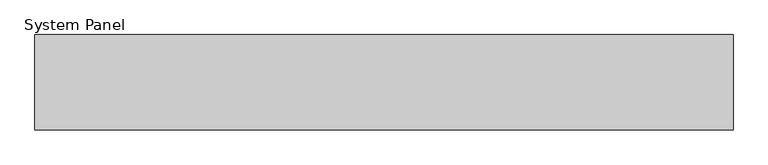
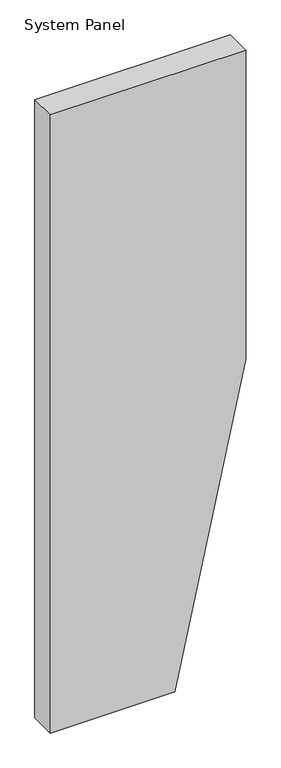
"""IFC4 building model written with IfcOpenShell, lengths in millimetres: plate geometry, System Panel : MetecnoPanel 150mm Vertical - Plain Astro - PIR."""

from ifc_helpers import new_model, si_unit, frame, origin, place, context, project, spatial, polyline, outline, extrude, source, transform, mapped, element, save


def system_panel_f83dd443(model_context):
    return source(origin(), model_context, "Body", "SweptSolid", [
        extrude(outline(polyline([(0.0, -550.0), (0.0, 150.0), (1839.9852118, 550.0), (3679.9704237, 550.0), (3679.9704237, -550.0), (0.0, -550.0)])), frame((0.0, -150.0, 0.0), z_axis=(0.0, 1.0, 0.0), x_axis=(0.0, 0.0, 1.0)), (0.0, 0.0, 1.0), 150.0),
    ])


if __name__ == "__main__":
    model = new_model("IFC4")
    model_context = context("Model", 3, world=origin())
    ifc_project = project(units=[si_unit("LENGTHUNIT", "METRE", prefix="MILLI")], contexts=[model_context])
    site = spatial("IfcSite", under=ifc_project)
    building = spatial("IfcBuilding", under=site)
    placement = place(None, origin())
    system_panel_shape = system_panel_f83dd443(model_context)
    element("IfcPlate", 1, ObjectType="System Panel : MetecnoPanel 150mm Vertical - Plain Astro - PIR", at=placement, inside=building, context=model_context, shape_type="MappedRepresentation", body=[
        mapped(system_panel_shape, transform((0.0, 0.0, 0.0), x_axis=(1.0, 0.0, 0.0), y_axis=(0.0, 1.0, 0.0), z_axis=(0.0, 0.0, 1.0))),
    ])
    save(model, "model.ifc")
